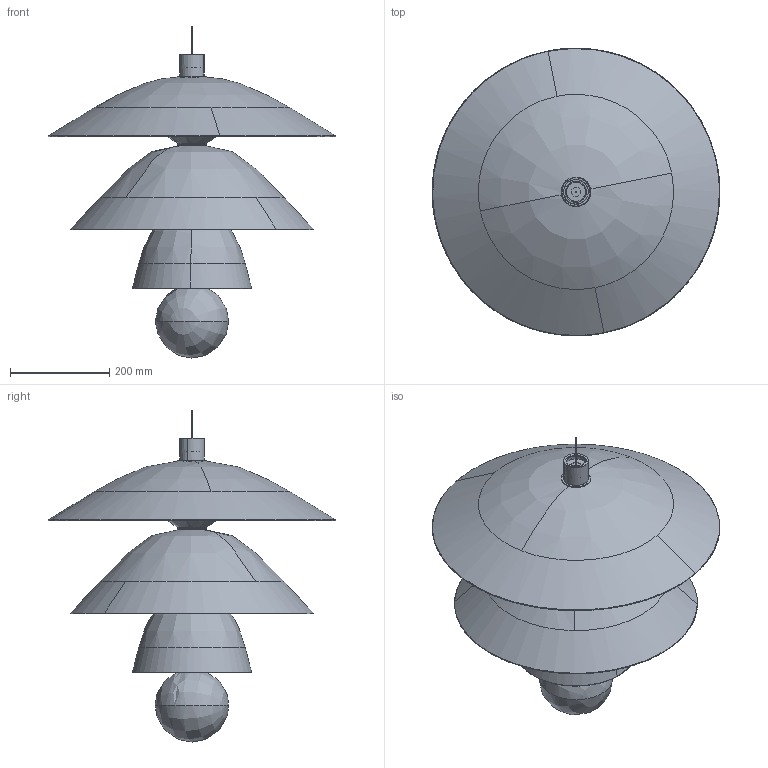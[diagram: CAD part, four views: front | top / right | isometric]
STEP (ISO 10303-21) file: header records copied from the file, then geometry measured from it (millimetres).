
FILE_DESCRIPTION(/* description */ (''),/* implementation_level */ '2;1');
FILE_NAME(/* name */ 'SEM.000218',/* time_stamp */ '2023-05-11T15:30:58+02:00',/* author */ (''),/* organization */ (''),/* preprocessor_version */ 'ST-DEVELOPER v16.5',/* originating_system */ 'Rhino 7.29',/* authorisation */ '');
FILE_SCHEMA (('CONFIG_CONTROL_DESIGN'));
Length unit declared in the file: millimetre
Products named in the file (11): Document; MET.006349; PLA.005260; MET.005642; VET.005135; VET.005128; PLA.005261; VET.005123; PLA.005262; VET.005125; VET.005126
Assembly tree (22 placements, depth 2):
  Document
    MET.006349
    PLA.005260
    MET.005642
    VET.005135
    VET.005128
    PLA.005261  x9
    VET.005123  x3
    PLA.005262  x3
    VET.005125
    VET.005126
Bounding box: 579.91 x 580 x 669.41 mm (x, y, z)
Volume: 2825643.8 mm3; surface area: 1968055.2 mm2
Topology: 24 solids, 25 shells, 391 faces, 992 edges, 664 vertices
Faces by surface type: bspline 204, cylinder 114, plane 73
Entity records: 10854 total; most frequent: CARTESIAN_POINT 6548, ORIENTED_EDGE 1044, EDGE_CURVE 524, VERTEX_POINT 360, EDGE_LOOP 230, ADVANCED_FACE 201, FACE_OUTER_BOUND 201, DIRECTION 199
